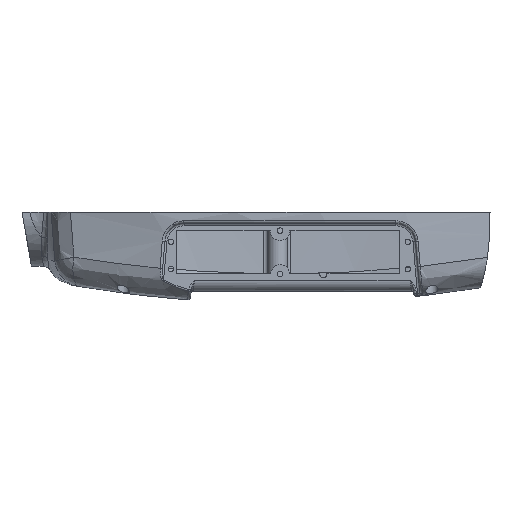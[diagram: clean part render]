
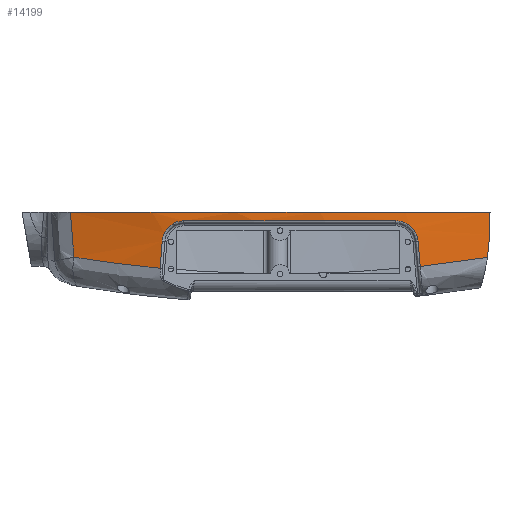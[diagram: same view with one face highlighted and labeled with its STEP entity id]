
A CAD part, front view. The second image highlights one B-rep face of the part: STEP entity #14199.
In plain terms, the highlighted cylindrical face has radius 704 mm (diameter 1408 mm), a partial arc.
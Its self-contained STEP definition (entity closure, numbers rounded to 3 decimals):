
#11935=CARTESIAN_POINT('Vertex',(-31.206,-122.307,-113.431)) ;
#11939=CARTESIAN_POINT('Control Point',(-31.206,-122.307,-113.431)) ;
#11940=CARTESIAN_POINT('Control Point',(-31.329,-122.316,-112.025)) ;
#11941=CARTESIAN_POINT('Control Point',(-31.591,-122.334,-110.632)) ;
#11942=CARTESIAN_POINT('Control Point',(-31.989,-122.361,-109.268)) ;
#11943=CARTESIAN_POINT('Control Point',(-33.256,-122.447,-106.119)) ;
#11944=CARTESIAN_POINT('Control Point',(-35.227,-122.576,-103.336)) ;
#11945=CARTESIAN_POINT('Control Point',(-36.59,-122.663,-101.883)) ;
#11946=CARTESIAN_POINT('Control Point',(-39.679,-122.849,-99.386)) ;
#11947=CARTESIAN_POINT('Control Point',(-43.327,-123.048,-97.804)) ;
#11948=CARTESIAN_POINT('Control Point',(-45.248,-123.146,-97.268)) ;
#11949=CARTESIAN_POINT('Control Point',(-47.218,-123.239,-97.)) ;
#11950=CARTESIAN_POINT('Control Point',(-49.188,-123.325,-97.)) ;
#11951=CARTESIAN_POINT('Vertex',(-49.188,-123.325,-97.)) ;
#11990=CARTESIAN_POINT('Axis2P3D Location',(-80.,580.,-97.)) ;
#11994=CARTESIAN_POINT('Vertex',(-221.125,-109.71,-97.)) ;
#12850=CARTESIAN_POINT('Vertex',(-29.407,-122.18,-133.934)) ;
#13414=CARTESIAN_POINT('Vertex',(-240.215,-105.527,-135.409)) ;
#13418=CARTESIAN_POINT('Control Point',(-310.12,-85.328,-126.471)) ;
#13419=CARTESIAN_POINT('Control Point',(-305.694,-86.859,-127.189)) ;
#13420=CARTESIAN_POINT('Control Point',(-301.252,-88.354,-127.885)) ;
#13421=CARTESIAN_POINT('Control Point',(-296.794,-89.813,-128.559)) ;
#13422=CARTESIAN_POINT('Control Point',(-282.945,-94.219,-130.577)) ;
#13423=CARTESIAN_POINT('Control Point',(-268.958,-98.275,-132.377)) ;
#13424=CARTESIAN_POINT('Control Point',(-259.429,-100.858,-133.494)) ;
#13425=CARTESIAN_POINT('Control Point',(-249.846,-103.276,-134.505)) ;
#13426=CARTESIAN_POINT('Control Point',(-240.215,-105.527,-135.409)) ;
#13427=CARTESIAN_POINT('Vertex',(-310.12,-85.328,-126.471)) ;
#13804=CARTESIAN_POINT('Vertex',(-238.552,-105.914,-113.48)) ;
#13808=CARTESIAN_POINT('Control Point',(-238.552,-105.914,-113.48)) ;
#13809=CARTESIAN_POINT('Control Point',(-238.89,-105.835,-117.865)) ;
#13810=CARTESIAN_POINT('Control Point',(-239.226,-105.758,-122.249)) ;
#13811=CARTESIAN_POINT('Control Point',(-239.558,-105.68,-126.634)) ;
#13812=CARTESIAN_POINT('Control Point',(-239.888,-105.603,-131.021)) ;
#13813=CARTESIAN_POINT('Control Point',(-240.215,-105.527,-135.409)) ;
#13911=CARTESIAN_POINT('Vertex',(-229.448,-107.954,-99.027)) ;
#13915=CARTESIAN_POINT('Control Point',(-229.448,-107.954,-99.027)) ;
#13916=CARTESIAN_POINT('Control Point',(-229.934,-107.849,-99.279)) ;
#13917=CARTESIAN_POINT('Control Point',(-230.408,-107.745,-99.552)) ;
#13918=CARTESIAN_POINT('Control Point',(-230.871,-107.644,-99.846)) ;
#13919=CARTESIAN_POINT('Control Point',(-232.707,-107.24,-101.127)) ;
#13920=CARTESIAN_POINT('Control Point',(-234.308,-106.882,-102.72)) ;
#13921=CARTESIAN_POINT('Control Point',(-235.355,-106.646,-104.069)) ;
#13922=CARTESIAN_POINT('Control Point',(-236.84,-106.308,-106.551)) ;
#13923=CARTESIAN_POINT('Control Point',(-237.811,-106.084,-109.262)) ;
#13924=CARTESIAN_POINT('Control Point',(-238.123,-106.013,-110.406)) ;
#13925=CARTESIAN_POINT('Control Point',(-238.374,-105.955,-111.715)) ;
#13926=CARTESIAN_POINT('Control Point',(-238.513,-105.922,-113.036)) ;
#13927=CARTESIAN_POINT('Control Point',(-238.528,-105.919,-113.184)) ;
#13928=CARTESIAN_POINT('Control Point',(-238.54,-105.916,-113.332)) ;
#13929=CARTESIAN_POINT('Control Point',(-238.552,-105.914,-113.48)) ;
#13994=CARTESIAN_POINT('Control Point',(-221.125,-109.71,-97.)) ;
#13995=CARTESIAN_POINT('Control Point',(-222.164,-109.497,-97.)) ;
#13996=CARTESIAN_POINT('Control Point',(-223.203,-109.283,-97.075)) ;
#13997=CARTESIAN_POINT('Control Point',(-224.235,-109.068,-97.224)) ;
#13998=CARTESIAN_POINT('Control Point',(-225.928,-108.711,-97.594)) ;
#13999=CARTESIAN_POINT('Control Point',(-227.564,-108.362,-98.163)) ;
#14000=CARTESIAN_POINT('Control Point',(-228.205,-108.224,-98.421)) ;
#14001=CARTESIAN_POINT('Control Point',(-228.834,-108.088,-98.709)) ;
#14002=CARTESIAN_POINT('Control Point',(-229.448,-107.954,-99.027)) ;
#14137=CARTESIAN_POINT('Control Point',(-29.407,-122.18,-133.934)) ;
#14138=CARTESIAN_POINT('Control Point',(-29.767,-122.206,-129.834)) ;
#14139=CARTESIAN_POINT('Control Point',(-30.126,-122.231,-125.733)) ;
#14140=CARTESIAN_POINT('Control Point',(-30.486,-122.257,-121.632)) ;
#14141=CARTESIAN_POINT('Control Point',(-30.846,-122.282,-117.532)) ;
#14142=CARTESIAN_POINT('Control Point',(-31.206,-122.307,-113.431)) ;
#14151=CARTESIAN_POINT('Axis2P3D Location',(-80.,580.,0.)) ;
#14157=CARTESIAN_POINT('Control Point',(-312.922,-84.352,-90.)) ;
#14158=CARTESIAN_POINT('Control Point',(-312.921,-84.352,-102.228)) ;
#14159=CARTESIAN_POINT('Control Point',(-311.979,-84.685,-114.437)) ;
#14160=CARTESIAN_POINT('Control Point',(-310.12,-85.328,-126.471)) ;
#14161=CARTESIAN_POINT('Vertex',(-312.922,-84.352,-90.)) ;
#14165=CARTESIAN_POINT('Control Point',(-29.407,-122.18,-133.934)) ;
#14166=CARTESIAN_POINT('Control Point',(-11.114,-120.862,-131.959)) ;
#14167=CARTESIAN_POINT('Control Point',(7.075,-118.832,-129.507)) ;
#14168=CARTESIAN_POINT('Control Point',(25.084,-116.113,-126.601)) ;
#14169=CARTESIAN_POINT('Vertex',(25.084,-116.113,-126.601)) ;
#14173=CARTESIAN_POINT('Control Point',(25.084,-116.113,-126.601)) ;
#14174=CARTESIAN_POINT('Control Point',(26.546,-115.892,-117.667)) ;
#14175=CARTESIAN_POINT('Control Point',(27.058,-115.812,-108.471)) ;
#14176=CARTESIAN_POINT('Control Point',(27.105,-115.805,-99.247)) ;
#14177=CARTESIAN_POINT('Control Point',(27.127,-115.802,-90.)) ;
#14178=CARTESIAN_POINT('Vertex',(27.127,-115.802,-90.)) ;
#14181=CARTESIAN_POINT('Axis2P3D Location',(-80.,580.,-90.)) ;
#11991=DIRECTION('Axis2P3D Direction',(0.,0.,-1.)) ;
#14152=DIRECTION('Axis2P3D Direction',(0.,0.,1.)) ;
#14153=DIRECTION('Axis2P3D XDirection',(0.142,0.99,0.)) ;
#14182=DIRECTION('Axis2P3D Direction',(0.,0.,1.)) ;
#11992=AXIS2_PLACEMENT_3D('Circle Axis2P3D',#11990,#11991,$) ;
#14154=AXIS2_PLACEMENT_3D('Cylinder Axis2P3D',#14151,#14152,#14153) ;
#14183=AXIS2_PLACEMENT_3D('Circle Axis2P3D',#14181,#14182,$) ;
#14187=ORIENTED_EDGE('',*,*,#14163,.T.) ;
#14188=ORIENTED_EDGE('',*,*,#13429,.F.) ;
#14189=ORIENTED_EDGE('',*,*,#13814,.F.) ;
#14190=ORIENTED_EDGE('',*,*,#13930,.F.) ;
#14191=ORIENTED_EDGE('',*,*,#14003,.F.) ;
#14192=ORIENTED_EDGE('',*,*,#11996,.F.) ;
#14193=ORIENTED_EDGE('',*,*,#11953,.F.) ;
#14194=ORIENTED_EDGE('',*,*,#14143,.F.) ;
#14195=ORIENTED_EDGE('',*,*,#14171,.T.) ;
#14196=ORIENTED_EDGE('',*,*,#14180,.T.) ;
#14197=ORIENTED_EDGE('',*,*,#14185,.F.) ;
#14199=ADVANCED_FACE('',(#14198),#14155,.T.) ;
#11938=B_SPLINE_CURVE_WITH_KNOTS('',5,(#11939,#11940,#11941,#11942,#11943,#11944,#11945,#11946,#11947,#11948,#11949,#11950),.UNSPECIFIED.,.F.,.U.,(6,3,3,6),(64.564,75.112,89.804,104.485),.UNSPECIFIED.) ;
#13417=B_SPLINE_CURVE_WITH_KNOTS('',5,(#13418,#13419,#13420,#13421,#13422,#13423,#13424,#13425,#13426),.UNSPECIFIED.,.F.,.U.,(6,3,6),(652.402,685.552,755.057),.UNSPECIFIED.) ;
#13807=B_SPLINE_CURVE_WITH_KNOTS('',5,(#13808,#13809,#13810,#13811,#13812,#13813),.UNSPECIFIED.,.F.,.U.,(6,6),(191.699,222.829),.UNSPECIFIED.) ;
#13914=B_SPLINE_CURVE_WITH_KNOTS('',5,(#13915,#13916,#13917,#13918,#13919,#13920,#13921,#13922,#13923,#13924,#13925,#13926,#13927,#13928,#13929),.UNSPECIFIED.,.F.,.U.,(6,3,3,3,6),(42.909,46.41,57.216,64.784,65.734),.UNSPECIFIED.) ;
#13993=B_SPLINE_CURVE_WITH_KNOTS('',5,(#13994,#13995,#13996,#13997,#13998,#13999,#14000,#14001,#14002),.UNSPECIFIED.,.F.,.U.,(6,3,6),(64.958,72.837,78.072),.UNSPECIFIED.) ;
#14136=B_SPLINE_CURVE_WITH_KNOTS('',5,(#14137,#14138,#14139,#14140,#14141,#14142),.UNSPECIFIED.,.F.,.U.,(6,6),(44.284,73.39),.UNSPECIFIED.) ;
#14156=B_SPLINE_CURVE_WITH_KNOTS('',3,(#14157,#14158,#14159,#14160),.UNSPECIFIED.,.F.,.U.,(4,4),(1152.378,1202.483),.UNSPECIFIED.) ;
#14164=B_SPLINE_CURVE_WITH_KNOTS('',3,(#14165,#14166,#14167,#14168),.UNSPECIFIED.,.F.,.U.,(4,4),(1052.728,1130.22),.UNSPECIFIED.) ;
#14172=B_SPLINE_CURVE_WITH_KNOTS('',4,(#14173,#14174,#14175,#14176,#14177),.UNSPECIFIED.,.F.,.U.,(5,5),(0.,63.396),.UNSPECIFIED.) ;
#11993=CIRCLE('generated circle',#11992,704.) ;
#14184=CIRCLE('generated circle',#14183,704.) ;
#14155=CYLINDRICAL_SURFACE('generated cylinder',#14154,704.) ;
#11953=EDGE_CURVE('',#11936,#11952,#11938,.T.) ;
#11996=EDGE_CURVE('',#11952,#11995,#11993,.T.) ;
#13429=EDGE_CURVE('',#13415,#13428,#13417,.F.) ;
#13814=EDGE_CURVE('',#13805,#13415,#13807,.T.) ;
#13930=EDGE_CURVE('',#13912,#13805,#13914,.T.) ;
#14003=EDGE_CURVE('',#11995,#13912,#13993,.T.) ;
#14143=EDGE_CURVE('',#12851,#11936,#14136,.T.) ;
#14163=EDGE_CURVE('',#14162,#13428,#14156,.T.) ;
#14171=EDGE_CURVE('',#12851,#14170,#14164,.T.) ;
#14180=EDGE_CURVE('',#14170,#14179,#14172,.T.) ;
#14185=EDGE_CURVE('',#14162,#14179,#14184,.T.) ;
#14186=EDGE_LOOP('',(#14187,#14188,#14189,#14190,#14191,#14192,#14193,#14194,#14195,#14196,#14197)) ;
#14198=FACE_OUTER_BOUND('',#14186,.T.) ;
#11936=VERTEX_POINT('',#11935) ;
#11952=VERTEX_POINT('',#11951) ;
#11995=VERTEX_POINT('',#11994) ;
#12851=VERTEX_POINT('',#12850) ;
#13415=VERTEX_POINT('',#13414) ;
#13428=VERTEX_POINT('',#13427) ;
#13805=VERTEX_POINT('',#13804) ;
#13912=VERTEX_POINT('',#13911) ;
#14162=VERTEX_POINT('',#14161) ;
#14170=VERTEX_POINT('',#14169) ;
#14179=VERTEX_POINT('',#14178) ;
